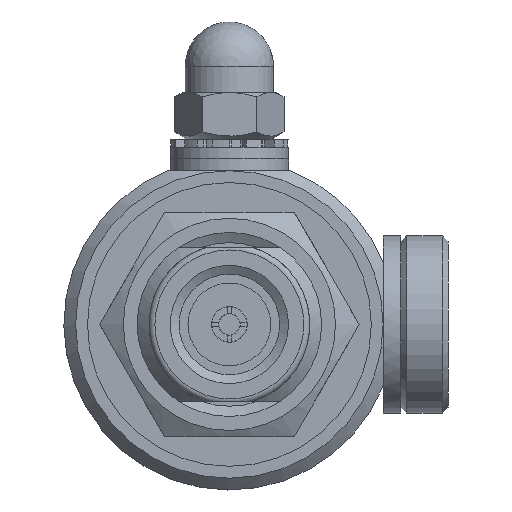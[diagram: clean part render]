
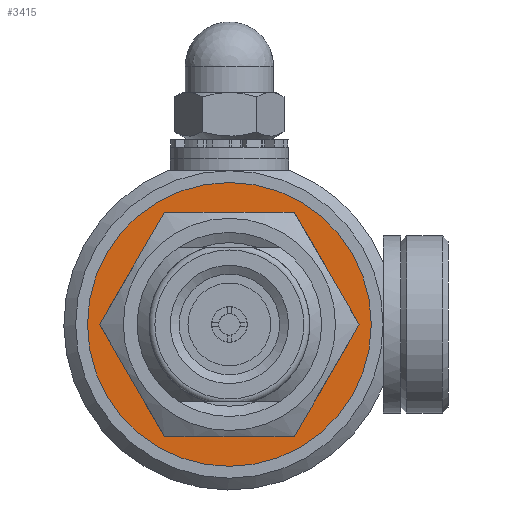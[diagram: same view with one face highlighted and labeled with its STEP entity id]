
A CAD part, left-side view. The second image highlights one B-rep face of the part: STEP entity #3415.
In plain terms, the highlighted planar face has unit normal (-1, 0, 0) as drawn and (0, 0, -1) by its records, which use the part's own axes.
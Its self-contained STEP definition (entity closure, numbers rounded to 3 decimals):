
#123=FACE_BOUND('',#744,.T.);
#219=PLANE('',#3969);
#531=FACE_OUTER_BOUND('',#743,.T.);
#743=EDGE_LOOP('',(#3195));
#744=EDGE_LOOP('',(#3196));
#1421=CIRCLE('',#3964,9.);
#1424=CIRCLE('',#3968,12.);
#1737=VERTEX_POINT('',#6165);
#1740=VERTEX_POINT('',#6173);
#2221=EDGE_CURVE('',#1737,#1737,#1421,.T.);
#2226=EDGE_CURVE('',#1740,#1740,#1424,.T.);
#3195=ORIENTED_EDGE('',*,*,#2226,.T.);
#3196=ORIENTED_EDGE('',*,*,#2221,.T.);
#3415=ADVANCED_FACE('',(#531,#123),#219,.F.);
#3964=AXIS2_PLACEMENT_3D('',#6166,#5009,#5010);
#3968=AXIS2_PLACEMENT_3D('',#6175,#5019,#5020);
#3969=AXIS2_PLACEMENT_3D('',#6176,#5021,#5022);
#5009=DIRECTION('center_axis',(0.,0.,1.));
#5010=DIRECTION('ref_axis',(-1.,0.,0.));
#5019=DIRECTION('center_axis',(0.,0.,-1.));
#5020=DIRECTION('ref_axis',(-1.,0.,0.));
#5021=DIRECTION('center_axis',(0.,0.,1.));
#5022=DIRECTION('ref_axis',(1.,0.,0.));
#6165=CARTESIAN_POINT('',(9.,0.,0.));
#6166=CARTESIAN_POINT('Origin',(0.,0.,0.));
#6173=CARTESIAN_POINT('',(12.,0.,0.));
#6175=CARTESIAN_POINT('Origin',(0.,0.,0.));
#6176=CARTESIAN_POINT('Origin',(0.,0.,
0.));
